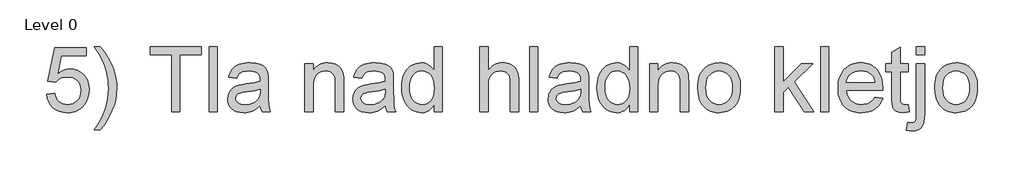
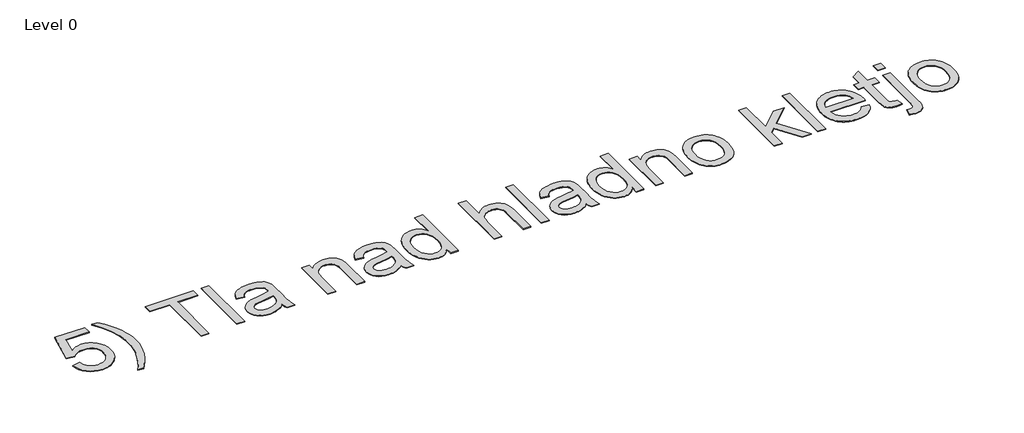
# One storey, part 9 of 11: 1 proxy.
"""IFC4 building model written with IfcOpenShell, lengths in millimetres."""

import ifcopenshell
import ifcopenshell.guid

model = None  # the IFC model being written
_history = None  # IfcOwnerHistory: only IFC2X3 demands one
_inside = {}  # id of a spatial element -> (the spatial element, [elements in it])
_under = {}  # id of a project, library or spatial element -> (it, [spatial elements below it])
_declared = {}  # id of a project -> (the project, [libraries it declares])
_typed = {}  # id of a type object -> (the type object, [elements of that type])
_made_of = {}  # id of a material, layer set ... -> (it, [elements and type objects made of it])


def new_model(schema):
    """Start an empty IFC model of exactly this schema.

    Asked for "IFC4X3", IfcOpenShell would pick the latest addendum, in which some entities
    have other attributes; the version numbers below select the first issue.
    IFC2X3 requires an IfcOwnerHistory on every rooted entity: one is made here for all.
    """
    global model, _history
    if schema == "IFC4X3":
        model = ifcopenshell.file(schema_version=(4, 3, 0, 0))
    else:
        model = ifcopenshell.file(schema=schema)
    _inside.clear()
    _under.clear()
    _declared.clear()
    _typed.clear()
    _made_of.clear()
    _history = None
    if model.schema == "IFC2X3":
        org = make("IfcOrganization", Name="unknown")
        user = make(
            "IfcPersonAndOrganization",
            ThePerson=make("IfcPerson", FamilyName="unknown"),
            TheOrganization=org,
        )
        app = make(
            "IfcApplication",
            ApplicationDeveloper=org,
            Version="unknown",
            ApplicationFullName="unknown",
            ApplicationIdentifier="unknown",
        )
        _history = make(
            "IfcOwnerHistory",
            OwningUser=user,
            OwningApplication=app,
            ChangeAction="ADDED",
            CreationDate=0,
        )
    return model


def make(cls, **values):
    """One entity of the class cls with the attributes given. An attribute that is None is left unset."""
    return model.create_entity(
        cls, **{name: value for name, value in values.items() if value is not None}
    )


def rooted(cls, **values):
    """An entity with a GlobalId (a new one), such as an element, a storey or a relation."""
    return make(cls, GlobalId=ifcopenshell.guid.new(), OwnerHistory=_history, **values)


def si_unit(unit_type, name, prefix=None):
    """IfcSIUnit, for example si_unit("LENGTHUNIT", "METRE", prefix="MILLI")."""
    return make("IfcSIUnit", UnitType=unit_type, Prefix=prefix, Name=name)


def assignment(units):
    """IfcUnitAssignment: the units of a project."""
    return None if units is None else make("IfcUnitAssignment", Units=units)


def point(xyz):
    """IfcCartesianPoint."""
    return None if xyz is None else make("IfcCartesianPoint", Coordinates=xyz)


def direction(xyz):
    """IfcDirection."""
    return None if xyz is None else make("IfcDirection", DirectionRatios=xyz)


def frame(location, z_axis=None, x_axis=None):
    """IfcAxis2Placement3D, a coordinate frame: its origin and axes. An axis left out is left unset."""
    return make(
        "IfcAxis2Placement3D",
        Location=point(location),
        Axis=direction(z_axis),
        RefDirection=direction(x_axis),
    )


def origin():
    """The frame at (0, 0, 0) with its axes left unset."""
    return frame((0.0, 0.0, 0.0))


def origin_with_axes():
    """The frame at (0, 0, 0) with the z axis (0, 0, 1) and the x axis (1, 0, 0) written out."""
    return frame((0.0, 0.0, 0.0), z_axis=(0.0, 0.0, 1.0), x_axis=(1.0, 0.0, 0.0))


def place(relative_to, where):
    """IfcLocalPlacement: puts the frame where relative to a parent placement (None: the world)."""
    return make(
        "IfcLocalPlacement", PlacementRelTo=relative_to, RelativePlacement=where
    )


def context(
    kind, dimensions, precision=None, world=None, true_north=None, identifier=None
):
    """IfcGeometricRepresentationContext, for example the 3D "Model" context."""
    return make(
        "IfcGeometricRepresentationContext",
        ContextIdentifier=identifier,
        ContextType=kind,
        CoordinateSpaceDimension=dimensions,
        Precision=precision,
        WorldCoordinateSystem=world,
        TrueNorth=true_north,
    )


def project(units=None, contexts=None):
    """IfcProject with its units and contexts."""
    return rooted(
        "IfcProject",
        Name="project",
        RepresentationContexts=contexts,
        UnitsInContext=assignment(units),
    )


def spatial(cls, under=None, at=None, **own):
    """A site, building, storey or space (cls), placed at a placement, below another one or the project."""
    s = rooted(cls, ObjectPlacement=at, **own)
    if under is not None:
        _under.setdefault(under.id(), (under, []))[1].append(s)
    return s


def polyline(points):
    """IfcPolyline through the points."""
    return make("IfcPolyline", Points=[point(p) for p in points])


def outline(outer, holes=None, kind="AREA"):
    """IfcArbitraryClosedProfileDef: a profile drawn as a closed curve; with holes, ...WithVoids."""
    if holes is None:
        return make("IfcArbitraryClosedProfileDef", ProfileType=kind, OuterCurve=outer)
    return make(
        "IfcArbitraryProfileDefWithVoids",
        ProfileType=kind,
        OuterCurve=outer,
        InnerCurves=holes,
    )


def extrude(swept, where, along, depth):
    """IfcExtrudedAreaSolid: the profile swept, set in the frame where, extruded along a direction by depth."""
    return make(
        "IfcExtrudedAreaSolid",
        SweptArea=swept,
        Position=where,
        ExtrudedDirection=direction(along),
        Depth=depth,
    )


def shape(context_of_items, identifier, shape_type, items):
    """IfcShapeRepresentation: the items that make up one representation, for example the "Body"."""
    return make(
        "IfcShapeRepresentation",
        ContextOfItems=context_of_items,
        RepresentationIdentifier=identifier,
        RepresentationType=shape_type,
        Items=items,
    )


def made_of(thing, what):
    """Note that an element or type object is made of a material, layer set ...; save() writes the relation."""
    if what is not None:
        _made_of.setdefault(what.id(), (what, []))[1].append(thing)
    return thing


def element(
    cls,
    number,
    at=None,
    inside=None,
    cuts=None,
    type_object=None,
    material=None,
    context=None,
    identifier="Body",
    shape_type=None,
    held_by="IfcProductDefinitionShape",
    body=None,
    shapes=None,
    **own,
):
    """One element of the class cls, such as IfcWall. Its Tag is "e" and its number.

    at: its placement. inside: the storey or other place that contains it. cuts: it is an
    opening in that element (IfcRelVoidsElement). A single representation is given by context,
    identifier, shape_type and body (its items); several are given by shapes. held_by: the class
    of the entity that holds the representations. save() writes the other relations.
    """
    e = rooted(cls, Tag="e%d" % number, ObjectPlacement=at, **own)
    if body is not None:
        shapes = [shape(context, identifier, shape_type, body)]
    if shapes is not None:
        e.Representation = make(held_by, Representations=shapes)
    if inside is not None:
        _inside.setdefault(inside.id(), (inside, []))[1].append(e)
    if cuts is not None:
        rooted(
            "IfcRelVoidsElement", RelatingBuildingElement=cuts, RelatedOpeningElement=e
        )
    if type_object is not None:
        _typed.setdefault(type_object.id(), (type_object, []))[1].append(e)
    return made_of(e, material)


def aggregate(whole, parts):
    """IfcRelAggregates: a whole, such as a stair, and the parts it consists of."""
    return rooted("IfcRelAggregates", RelatingObject=whole, RelatedObjects=parts)


def save(model, path):
    """Write the relations noted so far, then the file.

    IfcRelAggregates (storeys below a building ...), IfcRelContainedInSpatialStructure (elements
    in a storey), IfcRelDefinesByType, IfcRelAssociatesMaterial and IfcRelDeclares: one each for
    every whole, place, type object, material and project.
    """
    for whole, parts in _under.values():
        aggregate(whole, parts)
    for where, things in _inside.values():
        rooted(
            "IfcRelContainedInSpatialStructure",
            RelatedElements=things,
            RelatingStructure=where,
        )
    for kind, things in _typed.values():
        rooted("IfcRelDefinesByType", RelatedObjects=things, RelatingType=kind)
    for what, things in _made_of.values():
        rooted("IfcRelAssociatesMaterial", RelatedObjects=things, RelatingMaterial=what)
    for by, libraries in _declared.values():
        rooted("IfcRelDeclares", RelatingContext=by, RelatedDefinitions=libraries)
    model.write(path)


model = new_model("IFC4")

# Units and contexts
model_context = context("Model", 3, world=origin())
ifc_project = project(units=[si_unit("LENGTHUNIT", "METRE", prefix="MILLI")], contexts=[model_context])

# Site, building, storey
site = spatial("IfcSite", under=ifc_project)
building = spatial("IfcBuilding", under=site)
storey = spatial("IfcBuildingStorey", under=building, Name="Level 0", Elevation=0.0)

# Proxy
placement = place(None, origin())
element("IfcBuildingElementProxy", 1, Name="1000mm Arial", ObjectType="1000mm Arial", at=placement, inside=storey, context=model_context, shape_type="SweptSolid", body=[
    extrude(outline(polyline([(17847.4460274, -30152.0839288), (17973.0164151, -30136.3876303), (17982.397406, -30176.7550151), (17996.0703534, -30211.7727825), (18014.0352575, -30241.4409326), (18036.2921182, -30265.7594653), (18062.7949503, -30284.6977238), (18093.4977685, -30298.2250514), (18128.4005728, -30306.3414479), (18167.5033632, -30309.0469134), (18215.3280226, -30305.2837871), (18257.5118247, -30293.9944084), (18294.0547695, -30275.1787772), (18324.9568571, -30248.8368935), (18349.5283087, -30216.2716727), (18367.0793456, -30178.7860303), (18377.6099677, -30136.3799661), (18381.1201751, -30089.0534803), (18377.8322297, -30044.325161), (18367.9683937, -30004.5632487), (18351.5286671, -29969.7677433), (18328.5130497, -29939.9386449), (18298.8448997, -29916.0109868), (18262.4475748, -29898.9198024), (18219.3210751, -29888.6650918), (18169.4654005, -29885.2468549), (18108.5502735, -29890.7037712), (18082.438316, -29897.5249165), (18059.2234293, -29907.07452), (18019.829399, -29932.1518093), (17988.7127135, -29963.7283472), (17863.1423258, -29948.0320488), (17973.0164151, -29430.0541996), (18459.6016674, -29430.0541996), (18459.6016674, -29555.6245873), (18074.5518457, -29555.6245873), (18020.8410744, -29832.2718476), (18065.1555265, -29800.5113687), (18110.5429676, -29777.8253123), (18157.0033979, -29764.2136785), (18204.5368174, -29759.6764672), (18265.6895349, -29765.3019961), (18321.860517, -29782.1785826), (18373.0497638, -29810.3062268), (18419.2572752, -29849.6849287), (18457.5093385, -29897.9081269), (18484.8322409, -29952.56926), (18501.2259823, -30013.6683281), (18506.6905627, -30081.205331), (18501.7701411, -30146.2591305), (18487.008876, -30206.7757187), (18462.4067676, -30262.7550956), (18427.9638158, -30314.1972613), (18402.9631685, -30342.4207081), (18375.7858861, -30366.8810287), (18346.4319686, -30387.578223), (18314.9014159, -30404.5122911), (18281.1942281, -30417.683233), (18245.3104052, -30427.0910486), (18207.2499471, -30432.7357379), (18167.0128539, -30434.6173011), (18102.2119733, -30429.7811857), (18043.680415, -30415.2728395), (17991.418179, -30391.0922625), (17945.4252654, -30357.2394547), (17907.1578737, -30315.400542), (17878.0722035, -30267.2616501), (17858.1682547, -30212.822779), (17847.4460274, -30152.0839288)])), origin_with_axes(), (0.0, 0.0, 1.0), 10.0),
    extrude(outline(polyline([(18679.3498458, -30701.4543749), (18585.172055, -30701.4543749), (18636.6755344, -30621.0644947), (18681.3118831, -30540.6592862), (18719.0811013, -30460.2387492), (18749.9831889, -30379.8028838), (18774.0181459, -30299.35169), (18791.1859723, -30218.8851677), (18801.4866682, -30138.4033171), (18804.9202335, -30057.906138), (18802.9428678, -29995.1209442), (18797.0107706, -29932.581005), (18787.123942, -29870.2863205), (18773.2823819, -29808.2368906), (18743.2999993, -29709.7058296), (18703.3848028, -29615.2214705), (18659.6068454, -29534.8392545), (18585.172055, -29414.3579011), (18679.3498458, -29414.3579011), (18741.4912462, -29498.4495938), (18794.9874196, -29582.7252276), (18839.8383662, -29667.1848023), (18876.0440859, -29751.828318), (18899.8644451, -29825.6346433), (18916.8789874, -29901.1270944), (18927.0877127, -29978.3056713), (18930.4906212, -30057.170374), (18925.9150889, -30146.902924), (18912.1884919, -30235.1026323), (18889.3108304, -30321.769499), (18857.2821041, -30406.9035241), (18818.7081441, -30488.5886554), (18776.194781, -30564.908841), (18729.7420149, -30635.8640808), (18679.3498458, -30701.4543749)])), origin_with_axes(), (0.0, 0.0, 1.0), 10.0),
    extrude(outline(polyline([(19778.0907381, -30418.9210026), (19778.0907381, -29539.9282888), (19448.4684704, -29539.9282888), (19448.4684704, -29414.3579011), (20233.2833934, -29414.3579011), (20233.2833934, -29539.9282888), (19903.6611258, -29539.9282888), (19903.6611258, -30418.9210026), (19778.0907381, -30418.9210026)])), origin_with_axes(), (0.0, 0.0, 1.0), 10.0),
    extrude(outline(polyline([(20358.8537811, -30418.9210026), (20358.8537811, -29414.3579011), (20484.4241688, -29414.3579011), (20484.4241688, -30418.9210026), (20358.8537811, -30418.9210026)])), origin_with_axes(), (0.0, 0.0, 1.0), 10.0),
    extrude(outline(polyline([(21143.6687042, -30324.7432118), (21113.8932552, -30352.6869151), (21083.6732821, -30376.1853775), (21053.008785, -30395.2385992), (21021.8997638, -30409.8465801), (20989.9936649, -30420.6837705), (20956.9379348, -30428.4246208), (20922.7325734, -30433.069131), (20887.3775809, -30434.6173011), (20831.4671818, -30430.8924959), (20782.4392417, -30419.7180803), (20740.2937607, -30401.0940543), (20705.0307386, -30375.0204178), (20677.1866701, -30343.15264), (20657.2980497, -30307.1461897), (20645.3648775, -30267.001067), (20641.3871534, -30222.7172718), (20647.3958927, -30170.6619695), (20654.9068167, -30146.4277431), (20665.4221104, -30123.3891331), (20693.2278579, -30082.9221137), (20728.5751863, -30051.2842621), (20770.1151949, -30027.3719324), (20816.4989831, -30010.0814786), (20861.6871549, -30000.4552331), (20925.146799, -29991.1968695), (21053.5376154, -29971.3312418), (21103.1097142, -29960.110841), (21142.9329402, -29948.0320488), (21143.6687042, -29920.0730171), (21141.5073975, -29889.630782), (21135.0234773, -29864.0323265), (21124.2169437, -29843.2776506), (21109.0877966, -29827.3667544), (21082.9375181, -29811.4865149), (21051.0850687, -29800.1434867), (21013.5304484, -29793.3376698), (20970.2736571, -29791.0690642), (20930.0518923, -29792.5789132), (20895.4709848, -29797.1084603), (20866.5309345, -29804.6577054), (20843.2317414, -29815.2266485), (20824.0865493, -29829.6430242), (20807.6085016, -29848.7345669), (20793.7975983, -29872.5012766), (20782.6538396, -29900.9431534), (20657.0834519, -29885.2468549), (20666.6407196, -29849.0717921), (20678.8804601, -29816.5755492), (20693.8026735, -29787.7581262), (20711.4073598, -29762.6195232), (20732.4532756, -29740.6539024), (20757.6991776, -29721.3554261), (20787.1450656, -29704.7240942), (20820.7909397, -29690.7599068), (20857.9546855, -29679.7081185), (20897.9541882, -29671.8139841), (20940.789448, -29667.0775034), (20986.4604649, -29665.4986765), (21071.3492353, -29671.0782201), (21107.1947372, -29678.0526496), (21138.6409836, -29687.8168509), (21189.3780421, -29712.9861107), (21208.9294373, -29727.7090547), (21224.6027431, -29743.8575415), (21247.9632498, -29782.0252985), (21263.1077253, -29829.083537), (21267.7062502, -29872.4936124), (21269.2390919, -29938.9576262), (21269.2390919, -30095.1848468), (21270.8332472, -30231.2705282), (21275.6157131, -30313.33887), (21285.0580177, -30367.2642391), (21300.6316888, -30418.9210026), (21175.0613011, -30418.9210026), (21154.9504187, -30375.2656725), (21143.6687042, -30324.7432118)]), holes=[polyline([(21143.6687042, -30073.6024365), (21059.3010999, -30094.5103965), (20941.0883522, -30112.1074186), (20875.9425822, -30121.7336642), (20833.0536729, -30132.4635557), (20804.9413571, -30146.3817578), (20784.1253676, -30165.5729353), (20771.2494977, -30188.56556), (20766.9575411, -30213.888104), (20769.2951246, -30233.4011781), (20776.3078752, -30251.2281265), (20787.9957927, -30267.368949), (20804.3588773, -30281.8236457), (20825.2438447, -30293.7338253), (20850.4974108, -30302.2410965), (20880.1195757, -30307.3454591), (20914.1103392, -30309.0469134), (20948.8138741, -30307.1691824), (20981.5553716, -30301.5359893), (21012.3348319, -30292.1473342), (21041.1522548, -30279.0032171), (21067.1492492, -30263.1919555), (21089.4674235, -30245.801867), (21108.106778, -30226.8329517), (21123.0673124, -30206.2852094), (21131.7585246, -30187.8911096), (21137.9665332, -30165.5729353), (21142.9329402, -30109.1643627), (21143.6687042, -30073.6024365)])]), origin_with_axes(), (0.0, 0.0, 1.0), 10.0),
    extrude(outline(polyline([(21834.3058365, -30418.9210026), (21834.3058365, -29681.1949749), (21959.8762241, -29681.1949749), (21959.8762241, -29784.2019336), (21980.592579, -29756.3808577), (22003.5008974, -29732.2692586), (22028.6011794, -29711.8671363), (22055.8934249, -29695.1744908), (22085.377634, -29682.191322), (22117.0538066, -29672.91763), (22150.9219428, -29667.3534149), (22186.9820425, -29665.4986765), (22248.8781882, -29671.4767589), (22277.8718879, -29678.9493619), (22305.5626723, -29689.4110062), (22330.9005447, -29702.3022044), (22352.8355087, -29717.0634695), (22371.3675642, -29733.6948013), (22386.4967112, -29752.1962), (22409.3360517, -29794.7172273), (22424.1433021, -29844.5345808), (22429.109709, -29892.1752992), (22430.765178, -29965.9356392), (22430.765178, -30418.9210026), (22305.1947903, -30418.9210026), (22305.1947903, -29982.858211), (22301.577284, -29917.9270388), (22290.7247651, -29871.7578484), (22282.1025309, -29854.2911179), (22270.7058532, -29838.6791257), (22256.5347322, -29824.9218719), (22239.5891678, -29813.0193565), (22199.7046282, -29796.5566373), (22153.3821536, -29791.0690642), (22115.2527176, -29794.1500759), (22079.8364114, -29803.393111), (22047.1332349, -29818.7981696), (22017.1431881, -29840.3652515), (21992.0888913, -29870.5469035), (21974.1929651, -29911.7956723), (21963.4554094, -29964.1115576), (21959.8762241, -30027.4945597), (21959.8762241, -30418.9210026), (21834.3058365, -30418.9210026)])), origin_with_axes(), (0.0, 0.0, 1.0), 10.0),
    extrude(outline(polyline([(23074.3134149, -30324.7432118), (23044.5379659, -30352.6869151), (23014.3179928, -30376.1853775), (22983.6534957, -30395.2385992), (22952.5444745, -30409.8465801), (22920.6383756, -30420.6837705), (22887.5826455, -30428.4246208), (22853.3772841, -30433.069131), (22818.0222916, -30434.6173011), (22762.1118925, -30430.8924959), (22713.0839524, -30419.7180803), (22670.9384714, -30401.0940543), (22635.6754493, -30375.0204178), (22607.8313808, -30343.15264), (22587.9427604, -30307.1461897), (22576.0095882, -30267.001067), (22572.0318641, -30222.7172718), (22578.0406034, -30170.6619695), (22585.5515274, -30146.4277431), (22596.0668211, -30123.3891331), (22623.8725686, -30082.9221137), (22659.219897, -30051.2842621), (22700.7599056, -30027.3719324), (22747.1436938, -30010.0814786), (22792.3318656, -30000.4552331), (22855.7915097, -29991.1968695), (22984.182326, -29971.3312418), (23033.7544249, -29960.110841), (23073.5776509, -29948.0320488), (23074.3134149, -29920.0730171), (23072.1521081, -29889.630782), (23065.668188, -29864.0323265), (23054.8616544, -29843.2776506), (23039.7325073, -29827.3667544), (23013.5822288, -29811.4865149), (22981.7297794, -29800.1434867), (22944.1751591, -29793.3376698), (22900.9183678, -29791.0690642), (22860.696603, -29792.5789132), (22826.1156954, -29797.1084603), (22797.1756452, -29804.6577054), (22773.8764521, -29815.2266485), (22754.73126, -29829.6430242), (22738.2532123, -29848.7345669), (22724.442309, -29872.5012766), (22713.2985503, -29900.9431534), (22587.7281626, -29885.2468549), (22597.2854302, -29849.0717921), (22609.5251708, -29816.5755492), (22624.4473842, -29787.7581262), (22642.0520705, -29762.6195232), (22663.0979863, -29740.6539024), (22688.3438883, -29721.3554261), (22717.7897763, -29704.7240942), (22751.4356504, -29690.7599068), (22788.5993961, -29679.7081185), (22828.5988989, -29671.8139841), (22871.4341587, -29667.0775034), (22917.1051756, -29665.4986765), (23001.993946, -29671.0782201), (23037.8394479, -29678.0526496), (23069.2856943, -29687.8168509), (23120.0227528, -29712.9861107), (23139.574148, -29727.7090547), (23155.2474538, -29743.8575415), (23178.6079605, -29782.0252985), (23193.752436, -29829.083537), (23198.3509609, -29872.4936124), (23199.8838025, -29938.9576262), (23199.8838025, -30095.1848468), (23201.4779579, -30231.2705282), (23206.2604238, -30313.33887), (23215.7027283, -30367.2642391), (23231.2763995, -30418.9210026), (23105.7060118, -30418.9210026), (23085.5951294, -30375.2656725), (23074.3134149, -30324.7432118)]), holes=[polyline([(23074.3134149, -30073.6024365), (22989.9458106, -30094.5103965), (22871.7330628, -30112.1074186), (22806.5872929, -30121.7336642), (22763.6983836, -30132.4635557), (22735.5860678, -30146.3817578), (22714.7700782, -30165.5729353), (22701.8942084, -30188.56556), (22697.6022518, -30213.888104), (22699.9398353, -30233.4011781), (22706.9525858, -30251.2281265), (22718.6405034, -30267.368949), (22735.003588, -30281.8236457), (22755.8885554, -30293.7338253), (22781.1421215, -30302.2410965), (22810.7642864, -30307.3454591), (22844.7550499, -30309.0469134), (22879.4585847, -30307.1691824), (22912.2000823, -30301.5359893), (22942.9795426, -30292.1473342), (22971.7969655, -30279.0032171), (22997.7939599, -30263.1919555), (23020.1121342, -30245.801867), (23038.7514887, -30226.8329517), (23053.7120231, -30206.2852094), (23062.4032353, -30187.8911096), (23068.6112439, -30165.5729353), (23073.5776509, -30109.1643627), (23074.3134149, -30073.6024365)])]), origin_with_axes(), (0.0, 0.0, 1.0), 10.0),
    extrude(outline(polyline([(23827.735741, -30418.9210026), (23827.735741, -30300.4630002), (23809.9432816, -30331.9054144), (23790.1657922, -30359.1555068), (23768.4032729, -30382.2132773), (23744.6557237, -30401.0787258), (23718.9231446, -30415.7518525), (23691.2055355, -30426.2326573), (23661.5028965, -30432.5211401), (23629.8152276, -30434.6173011), (23588.3671895, -30431.5822746), (23548.635934, -30422.4771952), (23510.6214611, -30407.3020629), (23474.3237709, -30386.0568777), (23440.8771662, -30359.3777688), (23411.4159498, -30327.9008656), (23385.9401216, -30291.6261681), (23364.4496817, -30250.5536761), (23347.3891542, -30205.4651391), (23335.2030631, -30157.1423062), (23327.8914085, -30105.5851774), (23325.4541902, -30050.7937528), (23327.6998032, -29997.0063394), (23334.4366423, -29945.7634431), (23345.6647073, -29897.065064), (23361.3839984, -29850.911202), (23381.5868513, -29808.6507579), (23406.2656018, -29771.6326321), (23435.42025, -29739.8568248), (23469.0507957, -29713.3233359), (23505.9692867, -29692.4000474), (23544.9877709, -29677.4548413), (23586.106248, -29668.4877177), (23629.3247182, -29665.4986765), (23660.931913, -29667.6369906), (23690.7610114, -29674.0519329), (23718.8120136, -29684.7435034), (23745.0849194, -29699.711702), (23769.288489, -29718.0981376), (23791.1314825, -29739.0444187), (23810.6138998, -29762.5505453), (23827.735741, -29788.6165175), (23827.735741, -29414.3579011), (23953.3061287, -29414.3579011), (23953.3061287, -30418.9210026), (23827.735741, -30418.9210026)]), holes=[polyline([(23451.0245779, -30050.3032434), (23454.5654421, -30111.1953778), (23465.1880347, -30163.8868094), (23482.8923558, -30208.3775382), (23507.6784052, -30244.6675642), (23537.2775774, -30272.8335295), (23569.4212667, -30292.9520761), (23604.1094732, -30305.0232041), (23641.3421968, -30309.0469134), (23678.7511971, -30305.2071451), (23713.23247, -30293.6878401), (23744.7860153, -30274.4889985), (23773.411833, -30247.6106202), (23797.1785428, -30212.8381074), (23814.154764, -30169.9568624), (23824.3404967, -30118.966885), (23827.735741, -30059.8681753), (23824.2791831, -29995.0749589), (23813.9095093, -29939.5094492), (23796.6267198, -29893.1716462), (23772.4308144, -29856.06155), (23743.1765315, -29827.6273374), (23710.7186097, -29807.3171856), (23675.0570488, -29795.1310945), (23636.1918488, -29791.0690642), (23598.2233612, -29794.9701462), (23563.5351548, -29806.6733921), (23532.1272294, -29826.1788021), (23503.9995852, -29853.486376), (23480.8230195, -29889.1939222), (23464.2683297, -29933.8992488), (23454.3355159, -29987.6023559), (23451.0245779, -30050.3032434)])]), origin_with_axes(), (0.0, 0.0, 1.0), 10.0),
    extrude(outline(polyline([(24534.0691717, -30418.9210026), (24534.0691717, -29414.3579011), (24659.6395594, -29414.3579011), (24659.6395594, -29783.7114243), (24681.9922227, -29756.0053115), (24705.7627646, -29731.9933471), (24730.9511849, -29711.6755311), (24757.5574838, -29695.0518634), (24785.5816612, -29682.1223441), (24815.0237171, -29672.8869732), (24845.8836516, -29667.3457507), (24878.1614645, -29665.4986765), (24917.4175391, -29667.5143632), (24954.0064692, -29673.5614235), (24987.9282549, -29683.6398574), (25019.182896, -29697.7496647), (25046.9733151, -29715.4156647), (25070.5024344, -29736.1626764), (25089.7702539, -29759.9906998), (25104.7767736, -29786.8997349), (25116.0431597, -29818.5529149), (25124.0905783, -29856.613373), (25128.9190295, -29901.0811091), (25130.5285132, -29951.9561234), (25130.5285132, -30418.9210026), (25004.9581255, -30418.9210026), (25004.9581255, -29964.9546206), (25002.4595937, -29922.5562206), (24994.963998, -29886.3505009), (24982.4713386, -29856.3374615), (24964.9816154, -29832.5171023), (24942.9086957, -29814.3835856), (24916.6664467, -29801.4310737), (24886.2548684, -29793.6595665), (24851.6739609, -29791.0690642), (24824.734269, -29792.8165036), (24798.6069831, -29798.0588221), (24773.2921033, -29806.7960195), (24748.7896296, -29819.0280958), (24726.4254699, -29834.2492134), (24707.5255324, -29851.9535344), (24692.0898171, -29872.1410589), (24680.1183238, -29894.8117868), (24671.1588644, -29921.0080505), (24664.7592505, -29951.7721824), (24659.6395594, -30027.0040504), (24659.6395594, -30418.9210026), (24534.0691717, -30418.9210026)])), origin_with_axes(), (0.0, 0.0, 1.0), 10.0),
    extrude(outline(polyline([(25303.1877963, -30418.9210026), (25303.1877963, -29414.3579011), (25428.758184, -29414.3579011), (25428.758184, -30418.9210026), (25303.1877963, -30418.9210026)])), origin_with_axes(), (0.0, 0.0, 1.0), 10.0),
    extrude(outline(polyline([(26088.0027193, -30324.7432118), (26058.2272704, -30352.6869151), (26028.0072973, -30376.1853775), (25997.3428002, -30395.2385992), (25966.2337789, -30409.8465801), (25934.3276801, -30420.6837705), (25901.27195, -30428.4246208), (25867.0665886, -30433.069131), (25831.711596, -30434.6173011), (25775.801197, -30430.8924959), (25726.7732569, -30419.7180803), (25684.6277758, -30401.0940543), (25649.3647538, -30375.0204178), (25621.5206853, -30343.15264), (25601.6320649, -30307.1461897), (25589.6988927, -30267.001067), (25585.7211686, -30222.7172718), (25591.7299079, -30170.6619695), (25599.2408319, -30146.4277431), (25609.7561256, -30123.3891331), (25637.5618731, -30082.9221137), (25672.9092015, -30051.2842621), (25714.4492101, -30027.3719324), (25760.8329983, -30010.0814786), (25806.02117, -30000.4552331), (25869.4808142, -29991.1968695), (25997.8716305, -29971.3312418), (26047.4437294, -29960.110841), (26087.2669554, -29948.0320488), (26088.0027193, -29920.0730171), (26085.8414126, -29889.630782), (26079.3574925, -29864.0323265), (26068.5509589, -29843.2776506), (26053.4218118, -29827.3667544), (26027.2715333, -29811.4865149), (25995.4190839, -29800.1434867), (25957.8644636, -29793.3376698), (25914.6076723, -29791.0690642), (25874.3859075, -29792.5789132), (25839.8049999, -29797.1084603), (25810.8649496, -29804.6577054), (25787.5657566, -29815.2266485), (25768.4205645, -29829.6430242), (25751.9425168, -29848.7345669), (25738.1316135, -29872.5012766), (25726.9878547, -29900.9431534), (25601.4174671, -29885.2468549), (25610.9747347, -29849.0717921), (25623.2144753, -29816.5755492), (25638.1366887, -29787.7581262), (25655.741375, -29762.6195232), (25676.7872908, -29740.6539024), (25702.0331927, -29721.3554261), (25731.4790808, -29704.7240942), (25765.1249549, -29690.7599068), (25802.2887006, -29679.7081185), (25842.2882034, -29671.8139841), (25885.1234632, -29667.0775034), (25930.7944801, -29665.4986765), (26015.6832505, -29671.0782201), (26051.5287524, -29678.0526496), (26082.9749987, -29687.8168509), (26133.7120572, -29712.9861107), (26153.2634525, -29727.7090547), (26168.9367583, -29743.8575415), (26192.297265, -29782.0252985), (26207.4417404, -29829.083537), (26212.0402654, -29872.4936124), (26213.573107, -29938.9576262), (26213.573107, -30095.1848468), (26215.1672623, -30231.2705282), (26219.9497283, -30313.33887), (26229.3920328, -30367.2642391), (26244.965704, -30418.9210026), (26119.3953163, -30418.9210026), (26099.2844339, -30375.2656725), (26088.0027193, -30324.7432118)]), holes=[polyline([(26088.0027193, -30073.6024365), (26003.6351151, -30094.5103965), (25885.4223673, -30112.1074186), (25820.2765974, -30121.7336642), (25777.3876881, -30132.4635557), (25749.2753723, -30146.3817578), (25728.4593827, -30165.5729353), (25715.5835129, -30188.56556), (25711.2915563, -30213.888104), (25713.6291398, -30233.4011781), (25720.6418903, -30251.2281265), (25732.3298079, -30267.368949), (25748.6928925, -30281.8236457), (25769.5778599, -30293.7338253), (25794.831426, -30302.2410965), (25824.4535908, -30307.3454591), (25858.4443544, -30309.0469134), (25893.1478892, -30307.1691824), (25925.8893868, -30301.5359893), (25956.6688471, -30292.1473342), (25985.48627, -30279.0032171), (26011.4832644, -30263.1919555), (26033.8014387, -30245.801867), (26052.4407931, -30226.8329517), (26067.4013276, -30206.2852094), (26076.0925398, -30187.8911096), (26082.3005484, -30165.5729353), (26087.2669554, -30109.1643627), (26088.0027193, -30073.6024365)])]), origin_with_axes(), (0.0, 0.0, 1.0), 10.0),
    extrude(outline(polyline([(26841.4250455, -30418.9210026), (26841.4250455, -30300.4630002), (26823.6325861, -30331.9054144), (26803.8550967, -30359.1555068), (26782.0925774, -30382.2132773), (26758.3450282, -30401.0787258), (26732.6124491, -30415.7518525), (26704.89484, -30426.2326573), (26675.192201, -30432.5211401), (26643.5045321, -30434.6173011), (26602.0564939, -30431.5822746), (26562.3252385, -30422.4771952), (26524.3107656, -30407.3020629), (26488.0130754, -30386.0568777), (26454.5664707, -30359.3777688), (26425.1052543, -30327.9008656), (26399.6294261, -30291.6261681), (26378.1389862, -30250.5536761), (26361.0784587, -30205.4651391), (26348.8923676, -30157.1423062), (26341.5807129, -30105.5851774), (26339.1434947, -30050.7937528), (26341.3891077, -29997.0063394), (26348.1259468, -29945.7634431), (26359.3540118, -29897.065064), (26375.0733029, -29850.911202), (26395.2761558, -29808.6507579), (26419.9549063, -29771.6326321), (26449.1095544, -29739.8568248), (26482.7401002, -29713.3233359), (26519.6585912, -29692.4000474), (26558.6770753, -29677.4548413), (26599.7955525, -29668.4877177), (26643.0140227, -29665.4986765), (26674.6212175, -29667.6369906), (26704.4503159, -29674.0519329), (26732.5013181, -29684.7435034), (26758.7742239, -29699.711702), (26782.9777935, -29718.0981376), (26804.8207869, -29739.0444187), (26824.3032043, -29762.5505453), (26841.4250455, -29788.6165175), (26841.4250455, -29414.3579011), (26966.9954332, -29414.3579011), (26966.9954332, -30418.9210026), (26841.4250455, -30418.9210026)]), holes=[polyline([(26464.7138824, -30050.3032434), (26468.2547466, -30111.1953778), (26478.8773392, -30163.8868094), (26496.5816602, -30208.3775382), (26521.3677097, -30244.6675642), (26550.9668819, -30272.8335295), (26583.1105712, -30292.9520761), (26617.7987777, -30305.0232041), (26655.0315012, -30309.0469134), (26692.4405016, -30305.2071451), (26726.9217745, -30293.6878401), (26758.4753198, -30274.4889985), (26787.1011375, -30247.6106202), (26810.8678472, -30212.8381074), (26827.8440685, -30169.9568624), (26838.0298012, -30118.966885), (26841.4250455, -30059.8681753), (26837.9684876, -29995.0749589), (26827.5988138, -29939.5094492), (26810.3160243, -29893.1716462), (26786.1201189, -29856.06155), (26756.865836, -29827.6273374), (26724.4079142, -29807.3171856), (26688.7463533, -29795.1310945), (26649.8811533, -29791.0690642), (26611.9126657, -29794.9701462), (26577.2244593, -29806.6733921), (26545.8165339, -29826.1788021), (26517.6888897, -29853.486376), (26494.512324, -29889.1939222), (26477.9576342, -29933.8992488), (26468.0248204, -29987.6023559), (26464.7138824, -30050.3032434)])]), origin_with_axes(), (0.0, 0.0, 1.0), 10.0),
    extrude(outline(polyline([(27155.3510147, -30418.9210026), (27155.3510147, -29681.1949749), (27280.9214024, -29681.1949749), (27280.9214024, -29784.2019336), (27301.6377572, -29756.3808577), (27324.5460756, -29732.2692586), (27349.6463576, -29711.8671363), (27376.9386031, -29695.1744908), (27406.4228122, -29682.191322), (27438.0989848, -29672.91763), (27471.967121, -29667.3534149), (27508.0272207, -29665.4986765), (27569.9233664, -29671.4767589), (27598.9170662, -29678.9493619), (27626.6078505, -29689.4110062), (27651.9457229, -29702.3022044), (27673.8806869, -29717.0634695), (27692.4127424, -29733.6948013), (27707.5418894, -29752.1962), (27730.38123, -29794.7172273), (27745.1884803, -29844.5345808), (27750.1548872, -29892.1752992), (27751.8103562, -29965.9356392), (27751.8103562, -30418.9210026), (27626.2399685, -30418.9210026), (27626.2399685, -29982.858211), (27622.6224622, -29917.9270388), (27611.7699434, -29871.7578484), (27603.1477091, -29854.2911179), (27591.7510315, -29838.6791257), (27577.5799104, -29824.9218719), (27560.634346, -29813.0193565), (27520.7498064, -29796.5566373), (27474.4273318, -29791.0690642), (27436.2978959, -29794.1500759), (27400.8815896, -29803.393111), (27368.1784131, -29818.7981696), (27338.1883663, -29840.3652515), (27313.1340696, -29870.5469035), (27295.2381434, -29911.7956723), (27284.5005876, -29964.1115576), (27280.9214024, -30027.4945597), (27280.9214024, -30418.9210026), (27155.3510147, -30418.9210026)])), origin_with_axes(), (0.0, 0.0, 1.0), 10.0),
    extrude(outline(polyline([(27893.0770423, -30050.0579888), (27894.7746645, -30000.635342), (27899.8675308, -29954.5159689), (27908.3556415, -29911.6998696), (27920.2389963, -29872.1870441), (27935.5175954, -29835.9774923), (27954.1914388, -29803.0712143), (27976.2605264, -29773.46821), (28001.7248583, -29747.1684794), (28049.5801745, -29711.4379406), (28102.4018976, -29685.9161272), (28160.1900277, -29670.6030392), (28222.9445647, -29665.4986765), (28258.4126043, -29667.0525947), (28292.2213429, -29671.7143494), (28324.3707804, -29679.4839405), (28354.8609168, -29690.361368), (28383.6917521, -29704.346632), (28410.8632864, -29721.4397324), (28436.3755195, -29741.6406692), (28460.2284516, -29764.9494425), (28481.812778, -29790.9981702), (28500.5191943, -29819.4189704), (28516.3477003, -29850.211843), (28529.2982962, -29883.3767881), (28539.3709818, -29918.9138056), (28546.5657573, -29956.8228956), (28552.3215777, -30039.7572929), (28549.7770606, -30106.9723991), (28542.1435092, -30166.6152676), (28529.4209235, -30218.6858983), (28511.6093036, -30263.1842913), (28488.9309114, -30301.6202956), (28461.6080091, -30335.5037602), (28429.6405965, -30364.8346851), (28393.0286738, -30389.6130703), (28353.1977836, -30409.3024213), (28311.5734687, -30423.3662434), (28268.1557291, -30431.8045366), (28222.9445647, -30434.6173011), (28186.9170378, -30433.069131), (28152.656111, -30428.4246208), (28120.1617841, -30420.6837705), (28089.4340573, -30409.8465801), (28060.4729304, -30395.9130495), (28033.2784036, -30378.8831788), (28007.8504767, -30358.756968), (27984.1891498, -30335.534417), (27962.8347496, -30309.399467), (27944.3276028, -30280.5360587), (27928.6677093, -30248.9441924), (27915.8550692, -30214.6238679), (27905.8896825, -30177.5750853), (27898.7715491, -30137.7978446), (27893.0770423, -30050.0579888)]), holes=[polyline([(28018.64743, -30049.8127341), (28022.2802647, -30110.7201969), (28033.1787688, -30163.4576138), (28051.3429424, -30208.0249847), (28076.7727853, -30244.4223096), (28107.7055297, -30272.6955737), (28142.3784077, -30292.8907624), (28180.7914194, -30305.0078756), (28222.9445647, -30309.0469134), (28264.8831121, -30304.984883), (28303.1428396, -30292.7987919), (28337.7237472, -30272.4886401), (28368.6258348, -30244.0544276), (28394.0556777, -30207.2968849), (28412.2198512, -30162.0167426), (28423.1183553, -30108.2140008), (28426.75119, -30045.8886595), (28423.0953627, -29986.9125771), (28412.1278807, -29935.5547178), (28393.8487441, -29891.8150814), (28368.2579528, -29855.693668), (28337.2409021, -29827.4204038), (28302.6829871, -29807.2252151), (28264.584208, -29795.1081019), (28222.9445647, -29791.0690642), (28180.7914194, -29795.0927735), (28142.3784077, -29807.1639015), (28107.7055297, -29827.2824481), (28076.7727853, -29855.4484133), (28051.3429424, -29891.7384393), (28033.1787688, -29936.2291681), (28022.2802647, -29988.9205997), (28018.64743, -30049.8127341)])]), origin_with_axes(), (0.0, 0.0, 1.0), 10.0),
    extrude(outline(polyline([(29085.9957254, -30418.9210026), (29085.9957254, -29414.3579011), (29211.5661131, -29414.3579011), (29211.5661131, -29954.1634154), (29493.1184667, -29681.1949749), (29666.7587684, -29681.1949749), (29381.7728495, -29957.5969807), (29682.4550669, -30418.9210026), (29535.7927781, -30418.9210026), (29291.764388, -30044.9076408), (29211.5661131, -30122.6533692), (29211.5661131, -30418.9210026), (29085.9957254, -30418.9210026)])), origin_with_axes(), (0.0, 0.0, 1.0), 10.0),
    extrude(outline(polyline([(29792.3291561, -30418.9210026), (29792.3291561, -29414.3579011), (29917.8995438, -29414.3579011), (29917.8995438, -30418.9210026), (29792.3291561, -30418.9210026)])), origin_with_axes(), (0.0, 0.0, 1.0), 10.0),
    extrude(outline(polyline([(30622.7614466, -30199.1728241), (30745.8792876, -30214.8691226), (30727.0023427, -30264.1806384), (30701.5188504, -30307.6366991), (30669.4288105, -30345.2373047), (30630.7322231, -30376.9824552), (30585.8276271, -30402.1977002), (30535.1135612, -30420.2085896), (30478.5900255, -30431.0151232), (30416.2570199, -30434.6173011), (30376.2383566, -30433.0633828), (30338.342679, -30428.4016282), (30302.5699871, -30420.6320371), (30268.9202809, -30409.7546096), (30237.3935603, -30395.7693456), (30207.9898254, -30378.6762452), (30180.7090762, -30358.4753083), (30155.5513127, -30335.166535), (30132.9610589, -30309.0526615), (30113.382839, -30280.436424), (30096.8166529, -30249.3178226), (30083.2625006, -30215.6968571), (30072.7203822, -30179.5735276), (30065.1902976, -30140.9478342), (30060.6722469, -30099.8197768), (30059.1662299, -30056.1893554), (30060.6875753, -30011.0739936), (30065.2516113, -29968.5567984), (30072.858338, -29928.6377698), (30083.5077553, -29891.3169079), (30097.1998633, -29856.5942125), (30113.934662, -29824.4696836), (30133.7121513, -29794.9433214), (30156.5323313, -29768.0151258), (30181.7782333, -29743.987833), (30208.8328883, -29723.1641792), (30237.6962965, -29705.5441645), (30268.3684579, -29691.1277888), (30300.8493724, -29679.9150522), (30335.13904, -29671.9059546), (30371.2374608, -29667.100496), (30409.1446347, -29665.4986765), (30445.8121229, -29667.0966639), (30480.7666606, -29671.8906261), (30514.0082478, -29679.8805632), (30545.5368844, -29691.0664751), (30575.3525705, -29705.4483619), (30603.455306, -29723.0262235), (30629.845091, -29743.8000599), (30654.5219255, -29767.7698711), (30676.8535122, -29794.6367531), (30696.2075541, -29824.1018017), (30712.584051, -29856.1650168), (30725.983003, -29890.8263985), (30736.4044102, -29928.0859468), (30743.8482724, -29967.9436618), (30749.8033622, -30055.4535914), (30749.0675982, -30089.2987349), (30184.7366176, -30089.2987349), (30192.0099512, -30139.4073283), (30206.4723122, -30183.2925847), (30228.1237004, -30220.9545039), (30256.964116, -30252.3930861), (30291.3994036, -30277.1791355), (30329.8354079, -30294.8834566), (30372.2721289, -30305.5060492), (30418.7095666, -30309.0469134), (30453.4437583, -30307.4067728), (30485.5414624, -30302.4863511), (30515.0026788, -30294.2856483), (30541.8274076, -30282.8046644), (30566.0156488, -30267.736831), (30587.5674024, -30248.7755798), (30606.4826683, -30225.9209109), (30622.7614466, -30199.1728241)]), holes=[polyline([(30184.7366176, -29963.7283472), (30624.2329745, -29963.7283472), (30617.7797112, -29928.1970779), (30607.2490891, -29897.3869608), (30592.6411082, -29871.2979959), (30573.9557685, -29849.9301834), (30539.7120861, -29824.1784437), (30500.7472515, -29805.784344), (30457.0612646, -29794.7478841), (30408.6541254, -29791.0690642), (30364.5006217, -29794.0044559), (30324.0106096, -29802.8106312), (30287.1840891, -29817.4875899), (30254.0210601, -29838.0353322), (30226.19232, -29863.5034962), (30205.3686662, -29892.94172), (30191.5500988, -29926.3500037), (30184.7366176, -29963.7283472)])]), origin_with_axes(), (0.0, 0.0, 1.0), 10.0),
    extrude(outline(polyline([(31142.2108238, -30314.1972613), (31157.9071222, -30422.5998226), (31108.1817392, -30431.6129314), (31063.9745861, -30434.6173011), (31003.7032526, -30429.4056395), (30979.315742, -30422.8910625), (30958.7603355, -30413.7706547), (30926.9998566, -30389.674384), (30915.2582896, -30375.1890304), (30906.2758375, -30359.0788647), (30899.6233048, -30337.4811259), (30894.8714957, -30306.5330531), (30891.0700484, -30216.5859053), (30891.0700484, -29806.7653626), (30796.8922576, -29806.7653626), (30796.8922576, -29681.1949749), (30891.0700484, -29681.1949749), (30891.0700484, -29501.913816), (31016.6404361, -29428.0921623), (31016.6404361, -29681.1949749), (31142.2108238, -29681.1949749), (31142.2108238, -29806.7653626), (31016.6404361, -29806.7653626), (31016.6404361, -30212.9070853), (31018.295905, -30254.2324961), (31023.262312, -30277.6543165), (31031.9381957, -30290.6221568), (31044.722095, -30300.5856275), (31062.8402833, -30306.9315919), (31087.5190338, -30309.0469134), (31142.2108238, -30314.1972613)])), origin_with_axes(), (0.0, 0.0, 1.0), 10.0),
    extrude(outline(polyline([(31109.5919535, -30701.9448842), (31136.0794572, -30582.5058631), (31168.7596411, -30589.31168), (31193.7143031, -30591.5802857), (31211.2730041, -30590.0244514), (31226.4251438, -30585.3569486), (31239.1707221, -30577.5777772), (31249.509739, -30566.6869373), (31257.5035082, -30549.5727603), (31263.2133433, -30523.1235777), (31267.7812114, -30442.2201956), (31267.7812114, -29681.1949749), (31393.3515991, -29681.1949749), (31393.3515991, -30458.4070034), (31391.1289787, -30521.1921973), (31384.4611176, -30573.6766952), (31373.3480156, -30615.8604974), (31357.7896729, -30647.7436036), (31331.4861103, -30678.1091966), (31297.7022804, -30699.7989059), (31256.4381833, -30712.8127315), (31207.6938189, -30717.1506734), (31157.7844949, -30713.3492261), (31109.5919535, -30701.9448842)])), origin_with_axes(), (0.0, 0.0, 1.0), 10.0),
    extrude(outline(polyline([(31267.7812114, -29539.9282888), (31267.7812114, -29414.3579011), (31393.3515991, -29414.3579011), (31393.3515991, -29539.9282888), (31267.7812114, -29539.9282888)])), origin_with_axes(), (0.0, 0.0, 1.0), 10.0),
    extrude(outline(polyline([(31550.3145837, -30050.0579888), (31552.0122059, -30000.635342), (31557.1050722, -29954.5159689), (31565.5931828, -29911.6998696), (31577.4765377, -29872.1870441), (31592.7551368, -29835.9774923), (31611.4289802, -29803.0712143), (31633.4980678, -29773.46821), (31658.9623996, -29747.1684794), (31706.8177158, -29711.4379406), (31759.639439, -29685.9161272), (31817.4275691, -29670.6030392), (31880.1821061, -29665.4986765), (31915.6501457, -29667.0525947), (31949.4588843, -29671.7143494), (31981.6083218, -29679.4839405), (32012.0984582, -29690.361368), (32040.9292935, -29704.346632), (32068.1008277, -29721.4397324), (32093.6130609, -29741.6406692), (32117.465993, -29764.9494425), (32139.0503194, -29790.9981702), (32157.7567356, -29819.4189704), (32173.5852417, -29850.211843), (32186.5358376, -29883.3767881), (32196.6085232, -29918.9138056), (32203.8032987, -29956.8228956), (32209.5591191, -30039.7572929), (32207.014602, -30106.9723991), (32199.3810506, -30166.6152676), (32186.6584649, -30218.6858983), (32168.846845, -30263.1842913), (32146.1684528, -30301.6202956), (32118.8455504, -30335.5037602), (32086.8781379, -30364.8346851), (32050.2662152, -30389.6130703), (32010.435325, -30409.3024213), (31968.8110101, -30423.3662434), (31925.3932704, -30431.8045366), (31880.1821061, -30434.6173011), (31844.1545792, -30433.069131), (31809.8936524, -30428.4246208), (31777.3993255, -30420.6837705), (31746.6715987, -30409.8465801), (31717.7104718, -30395.9130495), (31690.5159449, -30378.8831788), (31665.0880181, -30358.756968), (31641.4266912, -30335.534417), (31620.072291, -30309.399467), (31601.5651442, -30280.5360587), (31585.9052507, -30248.9441924), (31573.0926106, -30214.6238679), (31563.1272238, -30177.5750853), (31556.0090904, -30137.7978446), (31550.3145837, -30050.0579888)]), holes=[polyline([(31675.8849714, -30049.8127341), (31679.5178061, -30110.7201969), (31690.4163102, -30163.4576138), (31708.5804837, -30208.0249847), (31734.0103267, -30244.4223096), (31764.9430711, -30272.6955737), (31799.6159491, -30292.8907624), (31838.0289608, -30305.0078756), (31880.1821061, -30309.0469134), (31922.1206535, -30304.984883), (31960.380381, -30292.7987919), (31994.9612886, -30272.4886401), (32025.8633762, -30244.0544276), (32051.2932191, -30207.2968849), (32069.4573926, -30162.0167426), (32080.3558967, -30108.2140008), (32083.9887314, -30045.8886595), (32080.3329041, -29986.9125771), (32069.3654221, -29935.5547178), (32051.0862855, -29891.8150814), (32025.4954942, -29855.693668), (31994.4784435, -29827.4204038), (31959.9205285, -29807.2252151), (31921.8217494, -29795.1081019), (31880.1821061, -29791.0690642), (31838.0289608, -29795.0927735), (31799.6159491, -29807.1639015), (31764.9430711, -29827.2824481), (31734.0103267, -29855.4484133), (31708.5804837, -29891.7384393), (31690.4163102, -29936.2291681), (31679.5178061, -29988.9205997), (31675.8849714, -30049.8127341)])]), origin_with_axes(), (0.0, 0.0, 1.0), 10.0),
])

save(model, "model.ifc")
